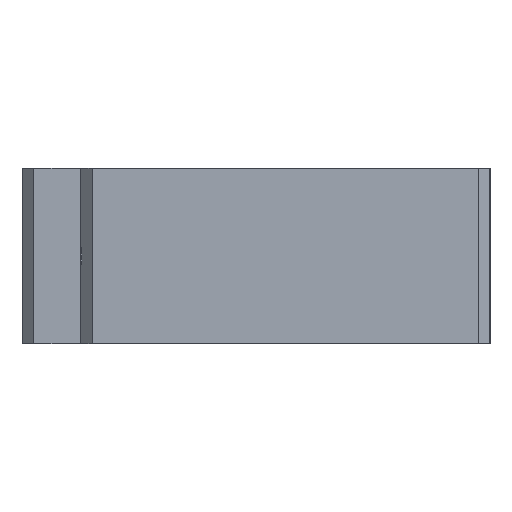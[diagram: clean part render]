
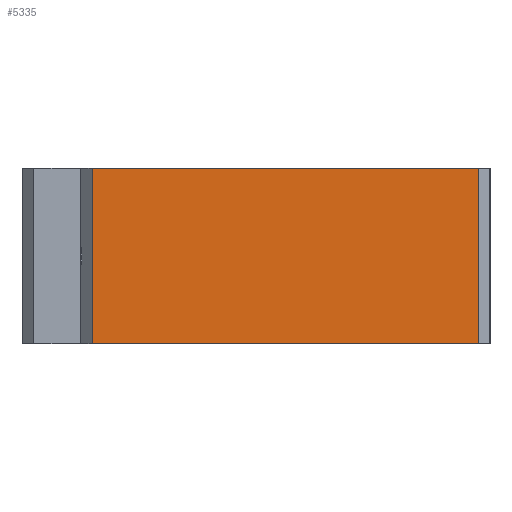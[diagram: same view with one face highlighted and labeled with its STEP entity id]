
A CAD part, left-side view. The second image highlights one B-rep face of the part: STEP entity #5335.
In plain terms, the highlighted planar face has unit normal (-1, 0, 0).
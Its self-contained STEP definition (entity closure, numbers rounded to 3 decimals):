
#492 = CARTESIAN_POINT ( 'NONE',  ( -158.778, -2.989, 15. ) ) ;
#557 = EDGE_CURVE ( 'NONE', #15168, #13768, #9190, .T. ) ;
#1394 = CARTESIAN_POINT ( 'NONE',  ( -158.778, -2.989, -15. ) ) ;
#1743 = LINE ( 'NONE', #9553, #18290 ) ;
#1940 = LINE ( 'NONE', #21201, #15871 ) ;
#2939 = DIRECTION ( 'NONE',  ( 0., 0., 1. ) ) ;
#4599 = DIRECTION ( 'NONE',  ( 1., 0., 0. ) ) ;
#4842 = FACE_OUTER_BOUND ( 'NONE', #20000, .T. ) ;
#5335 = ADVANCED_FACE ( 'NONE', ( #4842 ), #14423, .F. ) ;
#5831 = EDGE_CURVE ( 'NONE', #10365, #17433, #14072, .T. ) ;
#5883 = CARTESIAN_POINT ( 'NONE',  ( -158.778, -2.989, 15. ) ) ;
#6131 = EDGE_CURVE ( 'NONE', #13768, #10365, #1743, .T. ) ;
#6882 = DIRECTION ( 'NONE',  ( 0., 1., 0. ) ) ;
#7324 = DIRECTION ( 'NONE',  ( 0., 1., 0. ) ) ;
#8000 = EDGE_CURVE ( 'NONE', #17433, #15168, #1940, .T. ) ;
#9070 = VECTOR ( 'NONE', #2939, 1000. ) ;
#9190 = LINE ( 'NONE', #13286, #9070 ) ;
#9553 = CARTESIAN_POINT ( 'NONE',  ( -158.778, -2.989, 15. ) ) ;
#10365 = VERTEX_POINT ( 'NONE', #5883 ) ;
#10522 = AXIS2_PLACEMENT_3D ( 'NONE', #18352, #4599, #6882 ) ;
#13286 = CARTESIAN_POINT ( 'NONE',  ( -158.778, 63.011, 15. ) ) ;
#13702 = ORIENTED_EDGE ( 'NONE', *, *, #5831, .F. ) ;
#13768 = VERTEX_POINT ( 'NONE', #21973 ) ;
#14072 = LINE ( 'NONE', #492, #15043 ) ;
#14423 = PLANE ( 'NONE',  #10522 ) ;
#14560 = ORIENTED_EDGE ( 'NONE', *, *, #557, .F. ) ;
#15043 = VECTOR ( 'NONE', #23630, 1000. ) ;
#15168 = VERTEX_POINT ( 'NONE', #16379 ) ;
#15871 = VECTOR ( 'NONE', #7324, 1000. ) ;
#16379 = CARTESIAN_POINT ( 'NONE',  ( -158.778, 63.011, -15. ) ) ;
#17080 = DIRECTION ( 'NONE',  ( 0., -1., 0. ) ) ;
#17433 = VERTEX_POINT ( 'NONE', #1394 ) ;
#18290 = VECTOR ( 'NONE', #17080, 1000. ) ;
#18352 = CARTESIAN_POINT ( 'NONE',  ( -158.778, -2.989, 15. ) ) ;
#20000 = EDGE_LOOP ( 'NONE', ( #24581, #14560, #23861, #13702 ) ) ;
#21201 = CARTESIAN_POINT ( 'NONE',  ( -158.778, 75.011, -15. ) ) ;
#21973 = CARTESIAN_POINT ( 'NONE',  ( -158.778, 63.011, 15. ) ) ;
#23630 = DIRECTION ( 'NONE',  ( 0., 0., -1. ) ) ;
#23861 = ORIENTED_EDGE ( 'NONE', *, *, #8000, .F. ) ;
#24581 = ORIENTED_EDGE ( 'NONE', *, *, #6131, .F. ) ;
